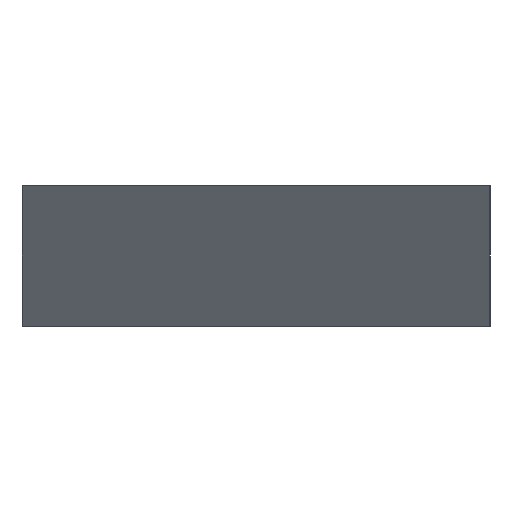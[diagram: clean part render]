
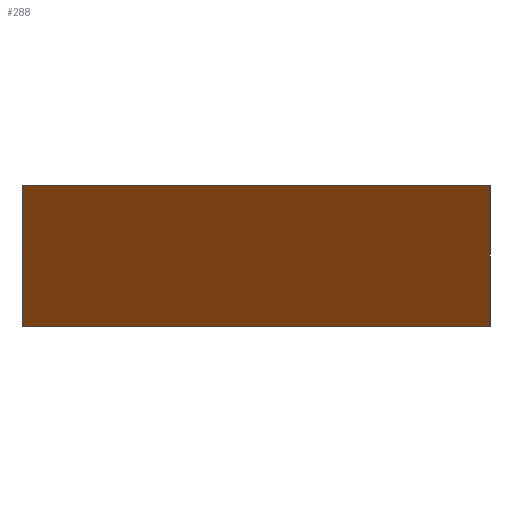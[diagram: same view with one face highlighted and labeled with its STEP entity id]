
A CAD part, left-side view. The second image highlights one B-rep face of the part: STEP entity #288.
In plain terms, the highlighted planar face has unit normal (-0.777, 0, -0.629).
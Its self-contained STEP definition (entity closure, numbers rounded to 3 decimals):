
#158=ORIENTED_EDGE('',*,*,#208,.T.);
#159=ORIENTED_EDGE('',*,*,#199,.T.);
#160=ORIENTED_EDGE('',*,*,#203,.T.);
#161=ORIENTED_EDGE('',*,*,#206,.T.);
#167=VECTOR('',#225,1.);
#171=VECTOR('',#231,1.);
#174=VECTOR('',#236,1.);
#176=VECTOR('',#240,1.);
#179=LINE('',#251,#167);
#183=LINE('',#259,#171);
#186=LINE('',#265,#174);
#188=LINE('',#268,#176);
#191=VERTEX_POINT('',#248);
#192=VERTEX_POINT('',#250);
#195=VERTEX_POINT('',#257);
#197=VERTEX_POINT('',#263);
#199=EDGE_CURVE('',#192,#191,#179,.T.);
#203=EDGE_CURVE('',#191,#195,#183,.T.);
#206=EDGE_CURVE('',#195,#197,#186,.T.);
#208=EDGE_CURVE('',#197,#192,#188,.T.);
#214=EDGE_LOOP('',(#158,#159,#160,#161));
#220=FACE_BOUND('',#214,.T.);
#225=DIRECTION('',(0.,-50.,0.));
#231=DIRECTION('',(-12.147,0.,15.));
#236=DIRECTION('',(0.,50.,0.));
#240=DIRECTION('',(12.147,0.,-15.));
#242=DIRECTION('',(-0.777,0.,-0.629));
#243=DIRECTION('',(0.,0.777,0.));
#248=CARTESIAN_POINT('',(-45.614,0.,-15.));
#250=CARTESIAN_POINT('',(-45.614,50.,-15.));
#251=CARTESIAN_POINT('',(-45.614,50.,-15.));
#257=CARTESIAN_POINT('',(-57.76,0.,0.));
#259=CARTESIAN_POINT('',(-45.614,0.,-15.));
#263=CARTESIAN_POINT('',(-57.76,50.,0.));
#265=CARTESIAN_POINT('',(-57.76,0.,0.));
#268=CARTESIAN_POINT('',(-57.76,50.,0.));
#270=CARTESIAN_POINT('',(-3.192,50.,-67.386));
#276=AXIS2_PLACEMENT_3D('',#270,#242,#243);
#282=PLANE('',#276);
#288=ADVANCED_FACE('',(#220),#282,.T.);
